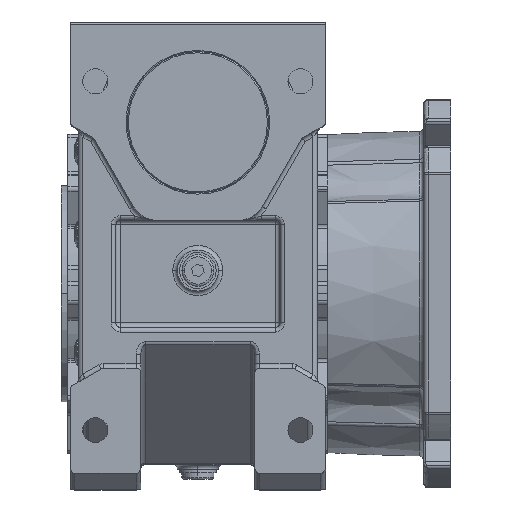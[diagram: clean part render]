
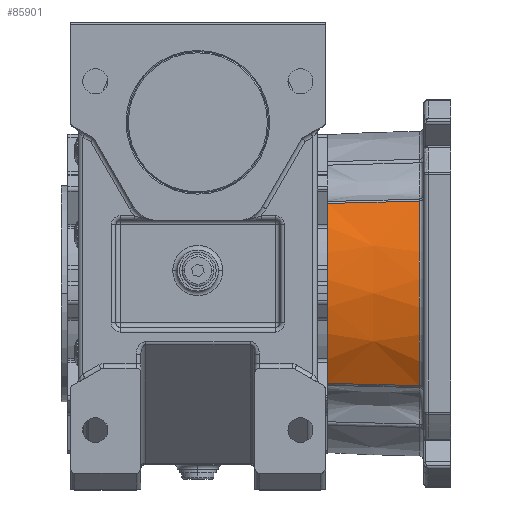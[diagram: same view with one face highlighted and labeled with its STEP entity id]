
A CAD part, top view. The second image highlights one B-rep face of the part: STEP entity #85901.
In plain terms, the highlighted conical face has half-angle 2 degrees and reference radius 71.467 mm.
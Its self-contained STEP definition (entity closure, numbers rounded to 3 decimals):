
#5574 = B_SPLINE_CURVE_WITH_KNOTS ( 'NONE', 3,
 ( #5720, #5718, #5716, #5714 ),
 .UNSPECIFIED., .F., .F.,
 ( 4, 4 ),
 ( 0., 0.04 ),
 .UNSPECIFIED. ) ;
#5581 = CARTESIAN_POINT ( 'NONE',  ( 57.817, -39.461, 0. ) ) ;
#5583 = DIRECTION ( 'NONE',  ( 1., 0., 0. ) ) ;
#5585 = DIRECTION ( 'NONE',  ( 0., 0., 1. ) ) ;
#5586 = CARTESIAN_POINT ( 'NONE',  ( 0., 0., 0. ) ) ;
#5588 = AXIS2_PLACEMENT_3D ( 'NONE', #5586, #5585, #5583 ) ;
#5590 = CIRCLE ( 'NONE', #5588, 70. ) ;
#5595 = CARTESIAN_POINT ( 'NONE',  ( 57.817, 39.461, 0. ) ) ;
#5596 = CARTESIAN_POINT ( 'NONE',  ( 58.156, 39.792, -13.357 ) ) ;
#5597 = CARTESIAN_POINT ( 'NONE',  ( 58.494, 40.123, -26.713 ) ) ;
#5599 = CARTESIAN_POINT ( 'NONE',  ( 58.833, 40.454, -40.07 ) ) ;
#5605 = CARTESIAN_POINT ( 'NONE',  ( 57.817, 39.461, 0. ) ) ;
#5607 = B_SPLINE_CURVE_WITH_KNOTS ( 'NONE', 3,
 ( #5599, #5597, #5596, #5595 ),
 .UNSPECIFIED., .F., .F.,
 ( 4, 4 ),
 ( 0., 0.04 ),
 .UNSPECIFIED. ) ;
#5714 = CARTESIAN_POINT ( 'NONE',  ( 58.833, -40.454, -40.07 ) ) ;
#5716 = CARTESIAN_POINT ( 'NONE',  ( 58.494, -40.123, -26.713 ) ) ;
#5718 = CARTESIAN_POINT ( 'NONE',  ( 58.156, -39.792, -13.357 ) ) ;
#5720 = CARTESIAN_POINT ( 'NONE',  ( 57.817, -39.461, 0. ) ) ;
#5733 = CARTESIAN_POINT ( 'NONE',  ( 58.833, 40.454, -40.07 ) ) ;
#5735 = CARTESIAN_POINT ( 'NONE',  ( 58.833, -40.454, -40.07 ) ) ;
#5737 = DIRECTION ( 'NONE',  ( -1., 0., 0. ) ) ;
#5739 = DIRECTION ( 'NONE',  ( 0., 0., 1. ) ) ;
#5741 = AXIS2_PLACEMENT_3D ( 'NONE', #5754, #5739, #5737 ) ;
#5743 = CIRCLE ( 'NONE', #5741, 71.399 ) ;
#5747 = DIRECTION ( 'NONE',  ( -1., 0., 0. ) ) ;
#5749 = DIRECTION ( 'NONE',  ( 0., 0., -1. ) ) ;
#5751 = CARTESIAN_POINT ( 'NONE',  ( 0., 0., -42. ) ) ;
#5752 = AXIS2_PLACEMENT_3D ( 'NONE', #5751, #5749, #5747 ) ;
#5754 = CARTESIAN_POINT ( 'NONE',  ( 0., 0., -40.07 ) ) ;
#5777 = CONICAL_SURFACE ( 'NONE', #5752, 71.467, 0.035 ) ;
#5779 = FACE_OUTER_BOUND ( 'NONE', #85904, .T. ) ;
#85857 = ORIENTED_EDGE ( 'NONE', *, *, #85858, .T. ) ;
#85858 = EDGE_CURVE ( 'NONE', #85909, #85861, #5607, .T. ) ;
#85861 = VERTEX_POINT ( 'NONE', #5605 ) ;
#85863 = ORIENTED_EDGE ( 'NONE', *, *, #85865, .F. ) ;
#85865 = EDGE_CURVE ( 'NONE', #85866, #85861, #5590, .T. ) ;
#85866 = VERTEX_POINT ( 'NONE', #5581 ) ;
#85867 = ORIENTED_EDGE ( 'NONE', *, *, #85869, .T. ) ;
#85869 = EDGE_CURVE ( 'NONE', #85866, #85907, #5574, .T. ) ;
#85901 = ADVANCED_FACE ( 'NONE', ( #5779 ), #5777, .T. ) ;
#85904 = EDGE_LOOP ( 'NONE', ( #85905, #85857, #85863, #85867 ) ) ;
#85905 = ORIENTED_EDGE ( 'NONE', *, *, #85906, .T. ) ;
#85906 = EDGE_CURVE ( 'NONE', #85907, #85909, #5743, .T. ) ;
#85907 = VERTEX_POINT ( 'NONE', #5735 ) ;
#85909 = VERTEX_POINT ( 'NONE', #5733 ) ;
